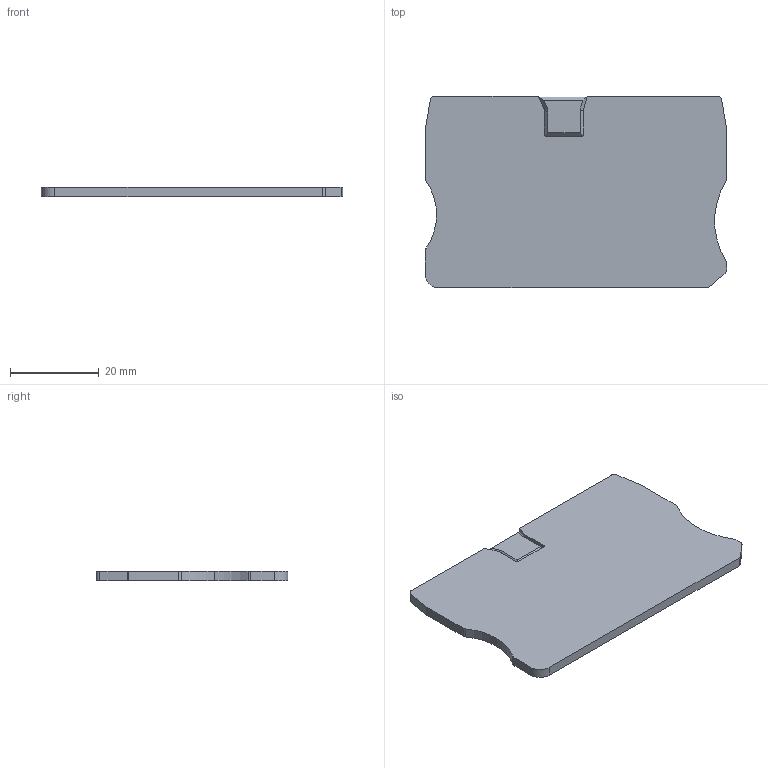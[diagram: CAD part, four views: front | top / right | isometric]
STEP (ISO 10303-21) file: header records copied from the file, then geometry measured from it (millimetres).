
FILE_DESCRIPTION( ('This file contains a STEP AP42 implementation' ,'as created by ZW3D STEP Interface translator.') ,'2;1' );
FILE_NAME( 'D-RPV10傷啣.stp' ,'23 616.115858', (''), ('ZWCAD Software Co.'), 'Version 1.0', 'ZW3D to STEP translator', '' );
FILE_SCHEMA(('AUTOMOTIVE_DESIGN { 1 0 10303 214 1 1 1 1 }'));
Length unit declared in the file: millimetre
Products named in the file (2): 0; D-RPV10傷啣
Bounding box: 67.7 x 43.1 x 2.2 mm (x, y, z)
Volume: 6188.8 mm3; surface area: 6208.2 mm2
Topology: 1 solids, 1 shells, 62 faces, 170 edges, 110 vertices
Faces by surface type: plane 36, cylinder 22, bspline 2, cone 2
Entity records: 2077 total; most frequent: CARTESIAN_POINT 402, ORIENTED_EDGE 340, DIRECTION 323, EDGE_CURVE 170, VECTOR 119, LINE 119, VERTEX_POINT 110, AXIS2_PLACEMENT_3D 102
